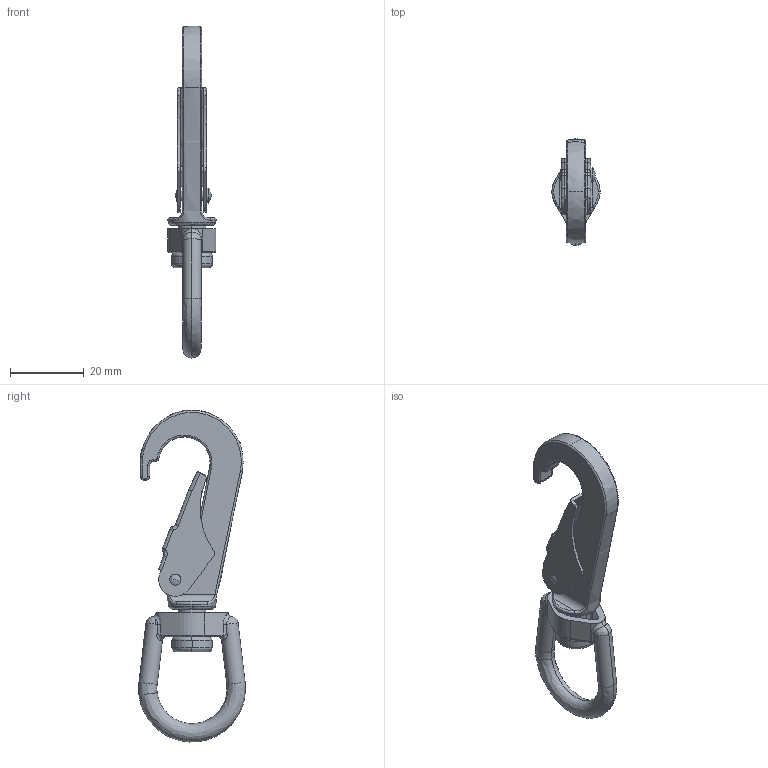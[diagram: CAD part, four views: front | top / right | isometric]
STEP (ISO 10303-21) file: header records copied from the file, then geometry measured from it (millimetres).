
FILE_DESCRIPTION (( 'STEP AP203' ), '1' );
FILE_NAME ('EB-927S-2.STEP', '2014-03-20T04:20:29', ( 'SDS' ), ( 'SDS' ), 'SwSTEP 2.0', 'SolidWorks 2002296', '' );
FILE_SCHEMA (( 'CONFIG_CONTROL_DESIGN' ));
Length unit declared in the file: millimetre
Products named in the file (4): EB-927S-2; EB-927S-22_蹬怮椔; EB-927S-23_蹬怮椔; EB-927S-21_蹬怮椔
Assembly tree (3 placements, depth 2):
  EB-927S-2
    EB-927S-23_蹬怮椔
    EB-927S-22_蹬怮椔
    EB-927S-21_蹬怮椔
Bounding box: 13.07 x 28.97 x 89.98 mm (x, y, z)
Volume: 6827.8 mm3; surface area: 6102.5 mm2
Topology: 3 solids, 3 shells, 227 faces, 574 edges, 350 vertices
Faces by surface type: cylinder 92, bspline 84, plane 49, cone 2
Entity records: 11486 total; most frequent: CARTESIAN_POINT 6278, ORIENTED_EDGE 1136, DIRECTION 880, EDGE_CURVE 568, VERTEX_POINT 350, AXIS2_PLACEMENT_3D 348, EDGE_LOOP 238, FACE_OUTER_BOUND 227
